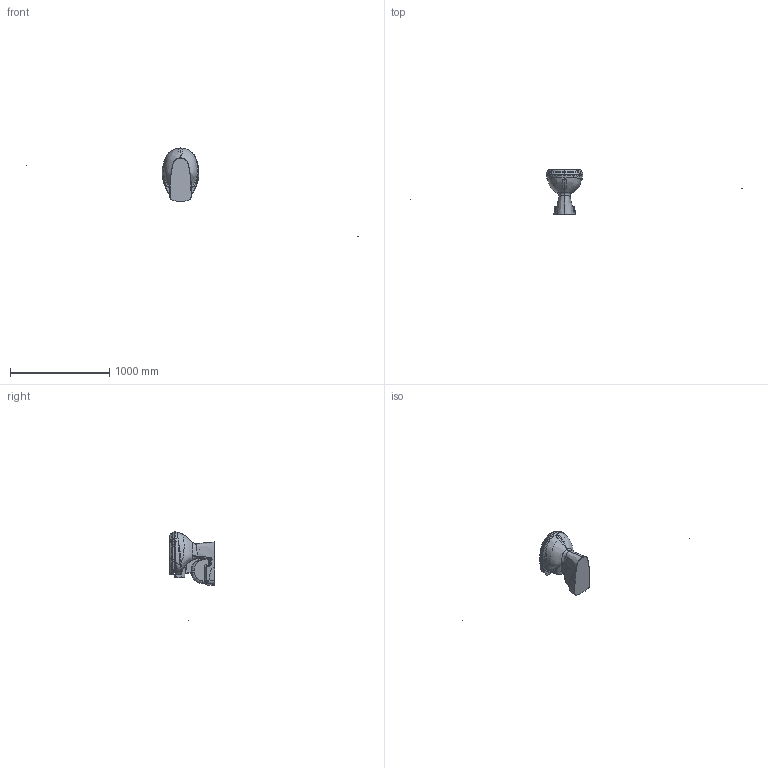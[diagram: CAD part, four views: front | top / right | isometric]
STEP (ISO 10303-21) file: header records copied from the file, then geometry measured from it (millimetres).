
FILE_DESCRIPTION (( 'STEP AP203' ), '1' );
FILE_NAME ('TP340-00CB00E-0000.STEP', '2022-04-28T05:53:38', ( '' ), ( '' ), 'SwSTEP 2.0', 'SolidWorks 2021', '' );
FILE_SCHEMA (( 'CONFIG_CONTROL_DESIGN' ));
Products named in the file (1): TP340-00CB00E-0000
Bounding box: 3342.89 x 453.73 x 886.52 mm (x, y, z)
Volume: 19088928 mm3; surface area: 1534947.6 mm2
Topology: 14 solids, 15 shells, 636 faces, 1558 edges, 936 vertices
Faces by surface type: bspline 339, cylinder 115, plane 95, torus 68, cone 17, sphere 2
Entity records: 109246 total; most frequent: CARTESIAN_POINT 96980, ORIENTED_EDGE 3068, DIRECTION 1791, EDGE_CURVE 1534, VERTEX_POINT 936, B_SPLINE_CURVE_WITH_KNOTS 765, AXIS2_PLACEMENT_3D 756, EDGE_LOOP 646
